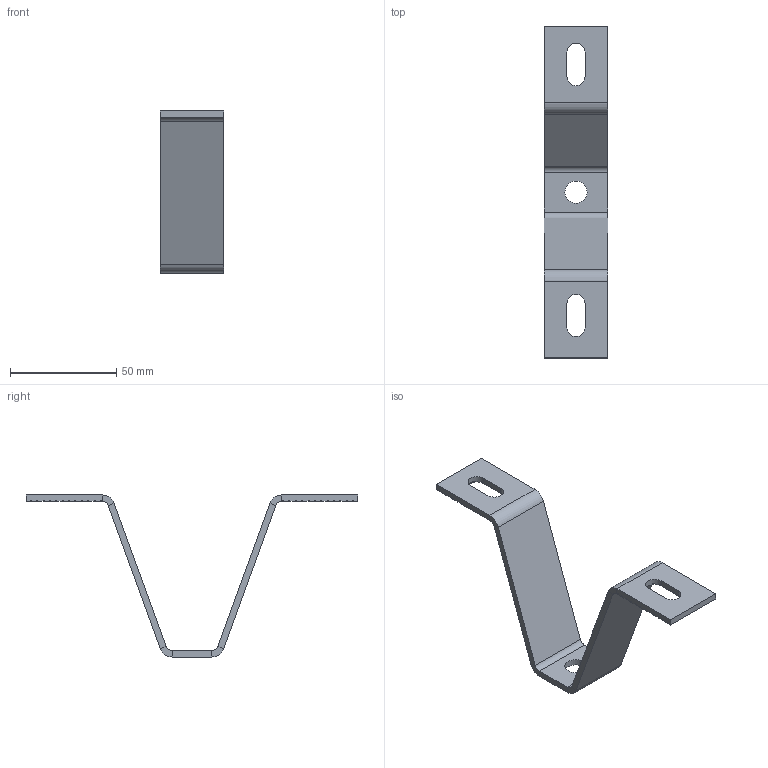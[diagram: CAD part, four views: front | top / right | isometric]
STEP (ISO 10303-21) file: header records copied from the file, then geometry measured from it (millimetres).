
FILE_DESCRIPTION(/* description */ (''),/* implementation_level */ '2;1');
FILE_NAME(/* name */ 'GE-OMS.step',/* time_stamp */ '2025-12-16T17:28:35+03:00',/* author */ (''),/* organization */ (''),/* preprocessor_version */ 'ST-DEVELOPER v20.1',/* originating_system */ 'Autodesk Translation Framework v14.21.0.0',/* authorisation */ '');
FILE_SCHEMA (('AUTOMOTIVE_DESIGN { 1 0 10303 214 3 1 1 }'));
Length unit declared in the file: millimetre
Products named in the file (1): GE-OMS
Bounding box: 30 x 156.09 x 76.2 mm (x, y, z)
Volume: 21643.8 mm3; surface area: 17235.6 mm2
Topology: 1 solids, 1 shells, 196 faces, 555 edges, 359 vertices
Faces by surface type: plane 183, cylinder 13
Full cylindrical faces by diameter (mm): 10.5 x1
Entity records: 6260 total; most frequent: CARTESIAN_POINT 1111, ORIENTED_EDGE 1110, DIRECTION 1000, EDGE_CURVE 555, LINE 504, VECTOR 504, VERTEX_POINT 359, AXIS2_PLACEMENT_3D 248
